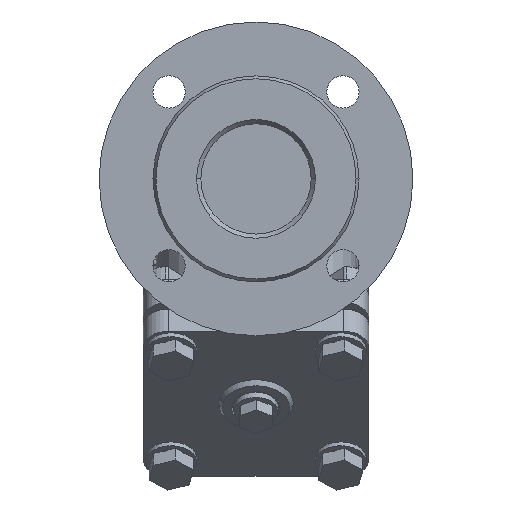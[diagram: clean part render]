
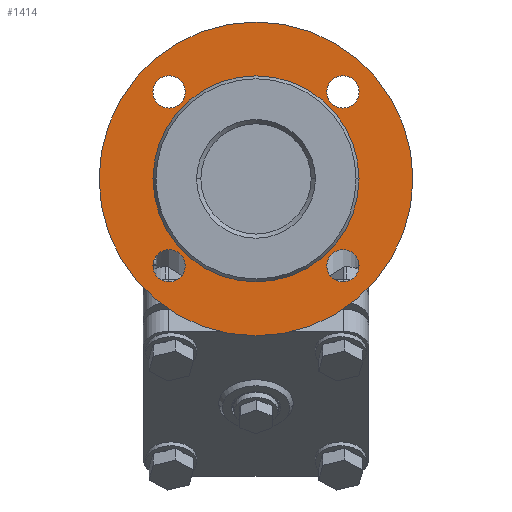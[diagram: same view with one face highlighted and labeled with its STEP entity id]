
A CAD part, left-side view. The second image highlights one B-rep face of the part: STEP entity #1414.
In plain terms, the highlighted planar face has unit normal (-1, 0, 0).
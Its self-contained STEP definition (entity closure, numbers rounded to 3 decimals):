
#1414=ADVANCED_FACE('',(#2833,#2834,#2835,#2836,#2837,#2838),#2839,.F.);
#2833=FACE_BOUND('',#4719,.T.);
#2834=FACE_BOUND('',#4720,.T.);
#2835=FACE_BOUND('',#4721,.T.);
#2836=FACE_BOUND('',#4722,.T.);
#2837=FACE_BOUND('',#4723,.T.);
#2838=FACE_OUTER_BOUND('',#4724,.T.);
#2839=PLANE('',#4725);
#4719=EDGE_LOOP('',(#6952,#6953));
#4720=EDGE_LOOP('',(#6954,#6955));
#4721=EDGE_LOOP('',(#6956,#6957));
#4722=EDGE_LOOP('',(#6958,#6959));
#4723=EDGE_LOOP('',(#6960,#6961));
#4724=EDGE_LOOP('',(#6962,#6963));
#4725=AXIS2_PLACEMENT_3D('',#6964,#6965,#6966);
#6952=ORIENTED_EDGE('',*,*,#10584,.T.);
#6953=ORIENTED_EDGE('',*,*,#10108,.T.);
#6954=ORIENTED_EDGE('',*,*,#10585,.T.);
#6955=ORIENTED_EDGE('',*,*,#10586,.T.);
#6956=ORIENTED_EDGE('',*,*,#10539,.T.);
#6957=ORIENTED_EDGE('',*,*,#10069,.T.);
#6958=ORIENTED_EDGE('',*,*,#10499,.T.);
#6959=ORIENTED_EDGE('',*,*,#10587,.T.);
#6960=ORIENTED_EDGE('',*,*,#10262,.T.);
#6961=ORIENTED_EDGE('',*,*,#10588,.T.);
#6962=ORIENTED_EDGE('',*,*,#10217,.F.);
#6963=ORIENTED_EDGE('',*,*,#10589,.F.);
#6964=CARTESIAN_POINT('',(-287.0,0.0,-0.001));
#6965=DIRECTION('',(1.0,0.0,0.));
#6966=DIRECTION('',(0.,0.0,1.0));
#10069=EDGE_CURVE('',#11783,#11781,#11784,.T.);
#10108=EDGE_CURVE('',#11845,#11847,#11849,.T.);
#10217=EDGE_CURVE('',#12040,#12042,#12043,.T.);
#10262=EDGE_CURVE('',#12116,#12118,#12120,.T.);
#10499=EDGE_CURVE('',#12494,#12496,#12498,.T.);
#10539=EDGE_CURVE('',#11781,#11783,#12563,.T.);
#10584=EDGE_CURVE('',#11847,#11845,#12630,.T.);
#10585=EDGE_CURVE('',#12631,#12632,#12633,.T.);
#10586=EDGE_CURVE('',#12632,#12631,#12634,.T.);
#10587=EDGE_CURVE('',#12496,#12494,#12635,.T.);
#10588=EDGE_CURVE('',#12118,#12116,#12636,.T.);
#10589=EDGE_CURVE('',#12042,#12040,#12637,.T.);
#11781=VERTEX_POINT('',#14156);
#11783=VERTEX_POINT('',#14159);
#11784=CIRCLE('',#14160,9.5);
#11845=VERTEX_POINT('',#14234);
#11847=VERTEX_POINT('',#14237);
#11849=CIRCLE('',#14240,32.5);
#12040=VERTEX_POINT('',#14493);
#12042=VERTEX_POINT('',#14496);
#12043=CIRCLE('',#14497,92.5);
#12116=VERTEX_POINT('',#14583);
#12118=VERTEX_POINT('',#14586);
#12120=CIRCLE('',#14589,9.5);
#12494=VERTEX_POINT('',#15062);
#12496=VERTEX_POINT('',#15065);
#12498=CIRCLE('',#15068,9.5);
#12563=CIRCLE('',#15158,9.5);
#12630=CIRCLE('',#15243,32.5);
#12631=VERTEX_POINT('',#15244);
#12632=VERTEX_POINT('',#15245);
#12633=CIRCLE('',#15246,9.5);
#12634=CIRCLE('',#15247,9.5);
#12635=CIRCLE('',#15248,9.5);
#12636=CIRCLE('',#15249,9.5);
#12637=CIRCLE('',#15250,92.5);
#14156=CARTESIAN_POINT('',(-287.0,51.265,-41.766));
#14159=CARTESIAN_POINT('',(-287.0,51.265,-60.766));
#14160=AXIS2_PLACEMENT_3D('',#16978,#16979,#16980);
#14234=CARTESIAN_POINT('',(-287.0,-32.5,-0.001));
#14237=CARTESIAN_POINT('',(-287.0,32.5,-0.001));
#14240=AXIS2_PLACEMENT_3D('',#17035,#17036,#17037);
#14493=CARTESIAN_POINT('',(-287.0,0.0,92.499));
#14496=CARTESIAN_POINT('',(-287.0,0.,-92.501));
#14497=AXIS2_PLACEMENT_3D('',#17173,#17174,#17175);
#14583=CARTESIAN_POINT('',(-287.0,51.265,60.765));
#14586=CARTESIAN_POINT('',(-287.0,51.265,41.765));
#14589=AXIS2_PLACEMENT_3D('',#17254,#17255,#17256);
#15062=CARTESIAN_POINT('',(-287.0,-51.265,60.765));
#15065=CARTESIAN_POINT('',(-287.0,-51.265,41.765));
#15068=AXIS2_PLACEMENT_3D('',#17577,#17578,#17579);
#15158=AXIS2_PLACEMENT_3D('',#17620,#17621,#17622);
#15243=AXIS2_PLACEMENT_3D('',#17674,#17675,#17676);
#15244=CARTESIAN_POINT('',(-287.0,-51.265,-41.766));
#15245=CARTESIAN_POINT('',(-287.0,-51.265,-60.766));
#15246=AXIS2_PLACEMENT_3D('',#17677,#17678,#17679);
#15247=AXIS2_PLACEMENT_3D('',#17680,#17681,#17682);
#15248=AXIS2_PLACEMENT_3D('',#17683,#17684,#17685);
#15249=AXIS2_PLACEMENT_3D('',#17686,#17687,#17688);
#15250=AXIS2_PLACEMENT_3D('',#17689,#17690,#17691);
#16978=CARTESIAN_POINT('',(-287.0,51.265,-51.266));
#16979=DIRECTION('',(1.0,0.0,0.));
#16980=DIRECTION('',(0.,0.0,1.0));
#17035=CARTESIAN_POINT('',(-287.0,0.,-0.001));
#17036=DIRECTION('',(1.0,0.,0.));
#17037=DIRECTION('',(0.0,-1.0,0.));
#17173=CARTESIAN_POINT('',(-287.0,0.0,-0.001));
#17174=DIRECTION('',(1.0,0.0,0.));
#17175=DIRECTION('',(0.,0.0,1.0));
#17254=CARTESIAN_POINT('',(-287.0,51.265,51.265));
#17255=DIRECTION('',(1.0,0.0,0.));
#17256=DIRECTION('',(0.,0.0,1.0));
#17577=CARTESIAN_POINT('',(-287.0,-51.265,51.265));
#17578=DIRECTION('',(1.0,0.0,0.));
#17579=DIRECTION('',(0.,0.0,1.0));
#17620=CARTESIAN_POINT('',(-287.0,51.265,-51.266));
#17621=DIRECTION('',(1.0,0.0,0.));
#17622=DIRECTION('',(0.,0.0,1.0));
#17674=CARTESIAN_POINT('',(-287.0,0.,-0.001));
#17675=DIRECTION('',(1.0,0.,0.));
#17676=DIRECTION('',(0.0,-1.0,0.));
#17677=CARTESIAN_POINT('',(-287.0,-51.265,-51.266));
#17678=DIRECTION('',(1.0,0.0,0.));
#17679=DIRECTION('',(0.,0.0,1.0));
#17680=CARTESIAN_POINT('',(-287.0,-51.265,-51.266));
#17681=DIRECTION('',(1.0,0.0,0.));
#17682=DIRECTION('',(0.,0.0,1.0));
#17683=CARTESIAN_POINT('',(-287.0,-51.265,51.265));
#17684=DIRECTION('',(1.0,0.0,0.));
#17685=DIRECTION('',(0.,0.0,1.0));
#17686=CARTESIAN_POINT('',(-287.0,51.265,51.265));
#17687=DIRECTION('',(1.0,0.0,0.));
#17688=DIRECTION('',(0.,0.0,1.0));
#17689=CARTESIAN_POINT('',(-287.0,0.0,-0.001));
#17690=DIRECTION('',(1.0,0.0,0.));
#17691=DIRECTION('',(0.,0.0,1.0));
